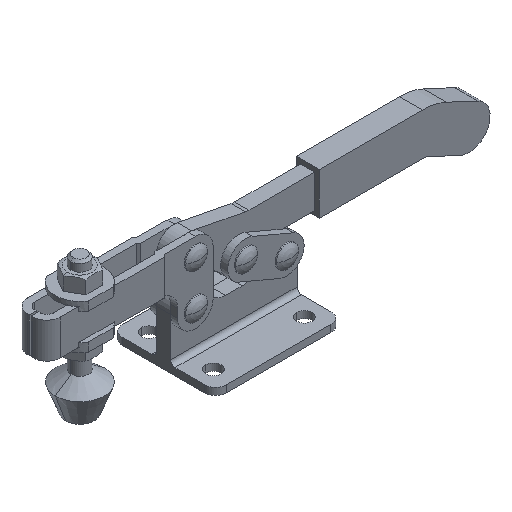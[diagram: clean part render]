
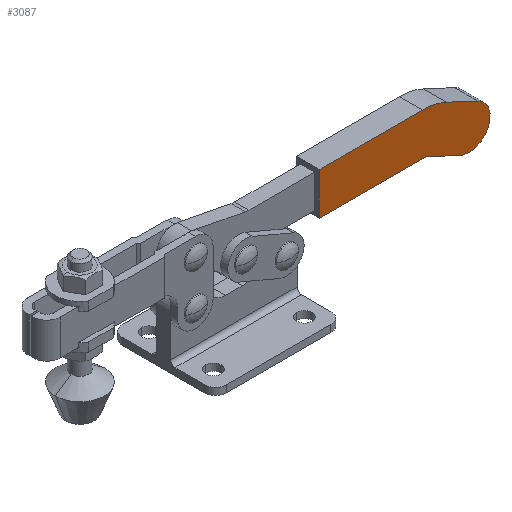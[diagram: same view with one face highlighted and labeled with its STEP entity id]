
A CAD part, isometric view. The second image highlights one B-rep face of the part: STEP entity #3087.
In plain terms, the highlighted planar face has unit normal (0, -1, 0).
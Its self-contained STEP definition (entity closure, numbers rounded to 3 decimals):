
#3016=CARTESIAN_POINT('Axis2P3D Location',(0.,-5.2,0.)) ;
#3021=CARTESIAN_POINT('Axis2P3D Location',(149.13,-5.2,20.106)) ;
#3025=CARTESIAN_POINT('Cartesian Point',(152.088,-5.2,26.45)) ;
#3027=CARTESIAN_POINT('Cartesian Point',(149.13,-5.2,27.106)) ;
#3030=CARTESIAN_POINT('Line Origine',(159.118,-5.2,23.171)) ;
#3034=CARTESIAN_POINT('Cartesian Point',(166.149,-5.2,19.893)) ;
#3037=CARTESIAN_POINT('Axis2P3D Location',(170.164,-5.2,28.503)) ;
#3041=CARTESIAN_POINT('Cartesian Point',(174.179,-5.2,37.113)) ;
#3044=CARTESIAN_POINT('Line Origine',(167.148,-5.2,40.391)) ;
#3048=CARTESIAN_POINT('Cartesian Point',(160.118,-5.2,43.67)) ;
#3051=CARTESIAN_POINT('Axis2P3D Location',(149.13,-5.2,20.106)) ;
#3055=CARTESIAN_POINT('Cartesian Point',(149.13,-5.2,46.106)) ;
#3058=CARTESIAN_POINT('Line Origine',(125.897,-5.2,46.106)) ;
#3062=CARTESIAN_POINT('Cartesian Point',(102.664,-5.2,46.106)) ;
#3065=CARTESIAN_POINT('Line Origine',(102.664,-5.2,36.606)) ;
#3069=CARTESIAN_POINT('Cartesian Point',(102.664,-5.2,27.106)) ;
#3072=CARTESIAN_POINT('Line Origine',(125.897,-5.2,27.106)) ;
#3017=DIRECTION('Axis2P3D Direction',(0.,1.,0.)) ;
#3018=DIRECTION('Axis2P3D XDirection',(0.,0.,-1.)) ;
#3022=DIRECTION('Axis2P3D Direction',(0.,1.,0.)) ;
#3031=DIRECTION('Vector Direction',(0.906,0.,-0.423)) ;
#3038=DIRECTION('Axis2P3D Direction',(0.,1.,0.)) ;
#3045=DIRECTION('Vector Direction',(0.906,0.,-0.423)) ;
#3052=DIRECTION('Axis2P3D Direction',(0.,1.,0.)) ;
#3059=DIRECTION('Vector Direction',(1.,0.,0.)) ;
#3066=DIRECTION('Vector Direction',(0.,0.,1.)) ;
#3073=DIRECTION('Vector Direction',(1.,0.,0.)) ;
#3019=AXIS2_PLACEMENT_3D('Plane Axis2P3D',#3016,#3017,#3018) ;
#3023=AXIS2_PLACEMENT_3D('Circle Axis2P3D',#3021,#3022,$) ;
#3039=AXIS2_PLACEMENT_3D('Circle Axis2P3D',#3037,#3038,$) ;
#3053=AXIS2_PLACEMENT_3D('Circle Axis2P3D',#3051,#3052,$) ;
#3078=ORIENTED_EDGE('Oriented Edge',*,*,#3029,.F.) ;
#3079=ORIENTED_EDGE('Oriented Edge',*,*,#3036,.T.) ;
#3080=ORIENTED_EDGE('Oriented Edge',*,*,#3043,.T.) ;
#3081=ORIENTED_EDGE('Oriented Edge',*,*,#3050,.F.) ;
#3082=ORIENTED_EDGE('Oriented Edge',*,*,#3057,.T.) ;
#3083=ORIENTED_EDGE('Oriented Edge',*,*,#3064,.F.) ;
#3084=ORIENTED_EDGE('Oriented Edge',*,*,#3071,.F.) ;
#3085=ORIENTED_EDGE('Oriented Edge',*,*,#3076,.T.) ;
#3032=VECTOR('Line Direction',#3031,1.) ;
#3046=VECTOR('Line Direction',#3045,1.) ;
#3060=VECTOR('Line Direction',#3059,1.) ;
#3067=VECTOR('Line Direction',#3066,1.) ;
#3074=VECTOR('Line Direction',#3073,1.) ;
#3087=ADVANCED_FACE('',(#3086),#3020,.F.) ;
#3024=CIRCLE('generated circle',#3023,7.) ;
#3040=CIRCLE('generated circle',#3039,9.5) ;
#3054=CIRCLE('generated circle',#3053,26.) ;
#3029=EDGE_CURVE('',#3026,#3028,#3024,.F.) ;
#3036=EDGE_CURVE('',#3026,#3035,#3033,.T.) ;
#3043=EDGE_CURVE('',#3035,#3042,#3040,.F.) ;
#3050=EDGE_CURVE('',#3049,#3042,#3047,.T.) ;
#3057=EDGE_CURVE('',#3049,#3056,#3054,.F.) ;
#3064=EDGE_CURVE('',#3063,#3056,#3061,.T.) ;
#3071=EDGE_CURVE('',#3070,#3063,#3068,.T.) ;
#3076=EDGE_CURVE('',#3070,#3028,#3075,.T.) ;
#3077=EDGE_LOOP('Oriented Loop',(#3078,#3079,#3080,#3081,#3082,#3083,#3084,#3085)) ;
#3086=FACE_OUTER_BOUND('Face Bound',#3077,.T.) ;
#3033=LINE('Line',#3030,#3032) ;
#3047=LINE('Line',#3044,#3046) ;
#3061=LINE('Line',#3058,#3060) ;
#3068=LINE('Line',#3065,#3067) ;
#3075=LINE('Line',#3072,#3074) ;
#3020=PLANE('Plane',#3019) ;
#3026=VERTEX_POINT('Vertex Point',#3025) ;
#3028=VERTEX_POINT('Vertex Point',#3027) ;
#3035=VERTEX_POINT('Vertex Point',#3034) ;
#3042=VERTEX_POINT('Vertex Point',#3041) ;
#3049=VERTEX_POINT('Vertex Point',#3048) ;
#3056=VERTEX_POINT('Vertex Point',#3055) ;
#3063=VERTEX_POINT('Vertex Point',#3062) ;
#3070=VERTEX_POINT('Vertex Point',#3069) ;
